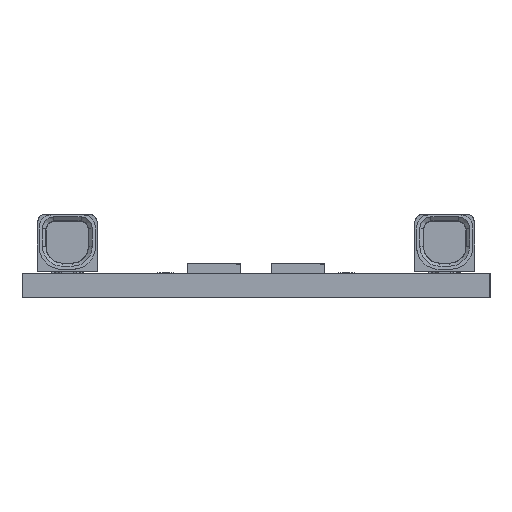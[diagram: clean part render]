
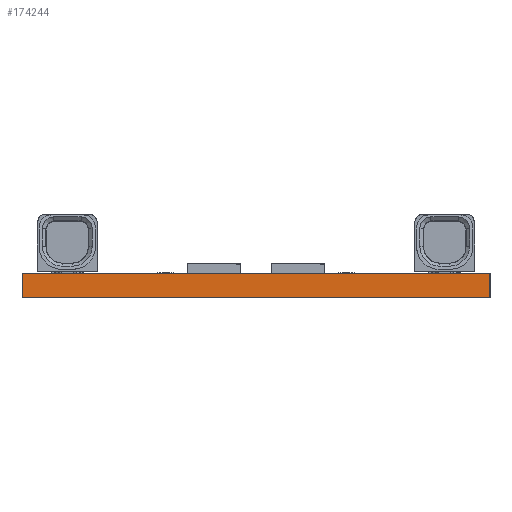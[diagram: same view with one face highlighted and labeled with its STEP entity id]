
A CAD part, left-side view. The second image highlights one B-rep face of the part: STEP entity #174244.
In plain terms, the highlighted planar face has unit normal (-1, 0, 0).
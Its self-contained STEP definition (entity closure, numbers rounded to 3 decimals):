
#13005 = ORIENTED_EDGE ( 'NONE', *, *, #239546, .T. ) ;
#16184 = DIRECTION ( 'NONE',  ( 0., 0., -1. ) ) ;
#25710 = VECTOR ( 'NONE', #153204, 1000. ) ;
#26825 = CARTESIAN_POINT ( 'NONE',  ( -280., 15.5, 1.6 ) ) ;
#28254 = VECTOR ( 'NONE', #293794, 1000. ) ;
#39247 = CARTESIAN_POINT ( 'NONE',  ( -280., -15.5, 1.6 ) ) ;
#43120 = CARTESIAN_POINT ( 'NONE',  ( -280., -15.5, 1.6 ) ) ;
#43387 = DIRECTION ( 'NONE',  ( 0., -1., 0. ) ) ;
#50771 = CARTESIAN_POINT ( 'NONE',  ( -280., -15.5, 1.6 ) ) ;
#55728 = LINE ( 'NONE', #50771, #25710 ) ;
#67009 = CARTESIAN_POINT ( 'NONE',  ( -280., -15.5, 1.6 ) ) ;
#74314 = CARTESIAN_POINT ( 'NONE',  ( -280., 15.5, 1.6 ) ) ;
#77633 = LINE ( 'NONE', #74314, #192886 ) ;
#101249 = VERTEX_POINT ( 'NONE', #39247 ) ;
#102420 = CARTESIAN_POINT ( 'NONE',  ( -280., -15.5, 0. ) ) ;
#113138 = EDGE_CURVE ( 'NONE', #324534, #101249, #55728, .T. ) ;
#153204 = DIRECTION ( 'NONE',  ( 0., -1., 0. ) ) ;
#157010 = EDGE_LOOP ( 'NONE', ( #326827, #258765, #222229, #13005 ) ) ;
#169012 = CARTESIAN_POINT ( 'NONE',  ( -280., 15.5, 0. ) ) ;
#173491 = VERTEX_POINT ( 'NONE', #169012 ) ;
#174244 = ADVANCED_FACE ( 'NONE', ( #268075 ), #313523, .F. ) ;
#192886 = VECTOR ( 'NONE', #258878, 1000. ) ;
#194393 = AXIS2_PLACEMENT_3D ( 'NONE', #43120, #195849, #16184 ) ;
#195849 = DIRECTION ( 'NONE',  ( 1., 0., 0. ) ) ;
#197747 = LINE ( 'NONE', #273294, #221139 ) ;
#216396 = LINE ( 'NONE', #67009, #28254 ) ;
#221139 = VECTOR ( 'NONE', #43387, 1000. ) ;
#222229 = ORIENTED_EDGE ( 'NONE', *, *, #113138, .F. ) ;
#239546 = EDGE_CURVE ( 'NONE', #324534, #173491, #77633, .T. ) ;
#255245 = EDGE_CURVE ( 'NONE', #101249, #317155, #216396, .T. ) ;
#258765 = ORIENTED_EDGE ( 'NONE', *, *, #255245, .F. ) ;
#258878 = DIRECTION ( 'NONE',  ( 0., 0., -1. ) ) ;
#266904 = EDGE_CURVE ( 'NONE', #173491, #317155, #197747, .T. ) ;
#268075 = FACE_OUTER_BOUND ( 'NONE', #157010, .T. ) ;
#273294 = CARTESIAN_POINT ( 'NONE',  ( -280., -15.5, 0. ) ) ;
#293794 = DIRECTION ( 'NONE',  ( 0., 0., -1. ) ) ;
#313523 = PLANE ( 'NONE',  #194393 ) ;
#317155 = VERTEX_POINT ( 'NONE', #102420 ) ;
#324534 = VERTEX_POINT ( 'NONE', #26825 ) ;
#326827 = ORIENTED_EDGE ( 'NONE', *, *, #266904, .T. ) ;
